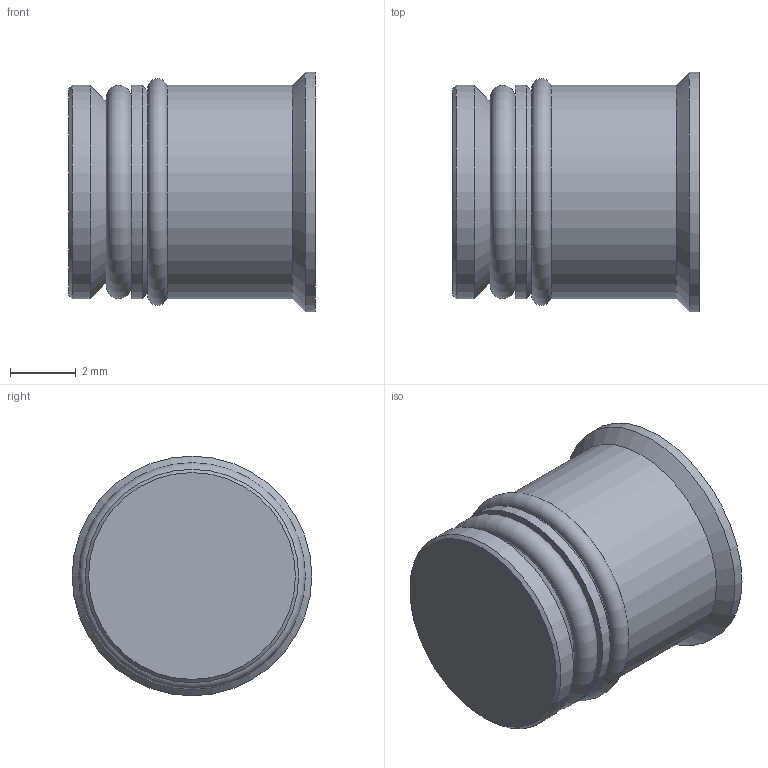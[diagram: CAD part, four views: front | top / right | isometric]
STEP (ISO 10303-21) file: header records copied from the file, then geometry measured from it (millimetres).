
FILE_DESCRIPTION( ( 'STEP AP214' ), '1' );
FILE_NAME( 'p:/temp/worker_103/temp/exporttempdir_3684_250_Br3gH/format_0/TR-6.stp', '2021-02-08T19:20:33', ( 'License CC BY-ND 4.0' ), ( 'CADENAS' ), ' ', 'PARTsolutions', ' ' );
FILE_SCHEMA( ( 'AUTOMOTIVE_DESIGN { 1 0 10303 214 1 1 1 1 }' ) );
Length unit declared in the file: millimetre
Products named in the file (1): _TR-6
Bounding box: 7.5 x 7.3 x 7.3 mm (x, y, z)
Volume: 211.2 mm3; surface area: 367.7 mm2
Topology: 1 solids, 1 shells, 31 faces, 66 edges, 42 vertices
Faces by surface type: plane 19, cone 5, cylinder 5, torus 2
Full cylindrical faces by diameter (mm): 4 x1, 6.5 x3, 7.3 x1
Entity records: 1022 total; most frequent: DIRECTION 132, CARTESIAN_POINT 126, ORIENTED_EDGE 104, EDGE_CURVE 52, AXIS2_PLACEMENT_3D 48, EDGE_LOOP 48, VERTEX_POINT 42, FACE_OUTER_BOUND 38
